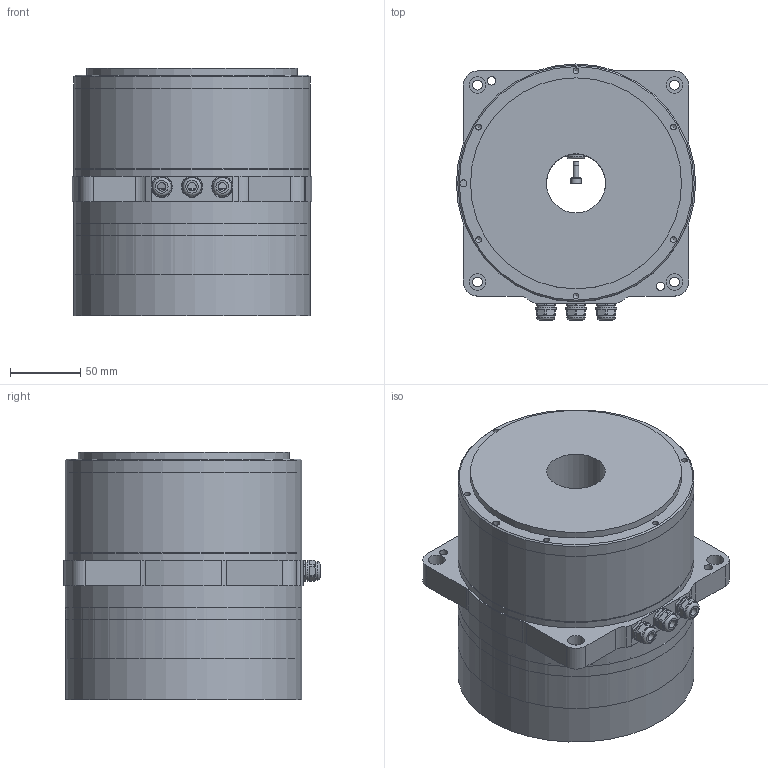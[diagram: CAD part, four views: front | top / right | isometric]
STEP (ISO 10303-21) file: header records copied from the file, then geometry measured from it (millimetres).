
FILE_DESCRIPTION( ( 'STEP AP203' ), '1' );
FILE_NAME( 'E:/LD 系列力矩电机/LD2 系列力矩电机/LD2-170 系列力矩电机/3D 图/LD2-170095 力矩电机.stp', '2016-04-07T02:56:52', ( ' ' ), ( ' ' ), 'XStep 1.0', ' ', ' ' );
FILE_SCHEMA( ( 'CONFIG_CONTROL_DESIGN) ( )' ) );
Length unit declared in the file: metre
Products named in the file (9): Assem1; Assem2; Assem3; 1; 2; 3; 4; 5; 6
Bounding box: 170 x 182 x 176.25 mm (x, y, z)
Surface area: 696169.2 mm2
Topology: 56 solids, 146 shells, 1696 faces, 3446 edges, 2182 vertices
Faces by surface type: plane 822, cylinder 652, cone 135, torus 87
Full cylindrical faces by diameter (mm): 1 x90, 3 x5, 3.242 x27, 4 x35, 4.134 x18, 5 x3, 5.68 x5, 6 x13, 7 x12, 7.22 x35, 10.376 x9, 12 x19, 13 x14, 15 x7, 42 x6, 150 x9, 153 x3, 158 x3, 168 x9
Entity records: 6793 total; most frequent: CARTESIAN_POINT 1275, DIRECTION 1176, ORIENTED_EDGE 738, AXIS2_PLACEMENT_3D 520, EDGE_LOOP 412, EDGE_CURVE 369, FACE_OUTER_BOUND 351, VERTEX_POINT 312
